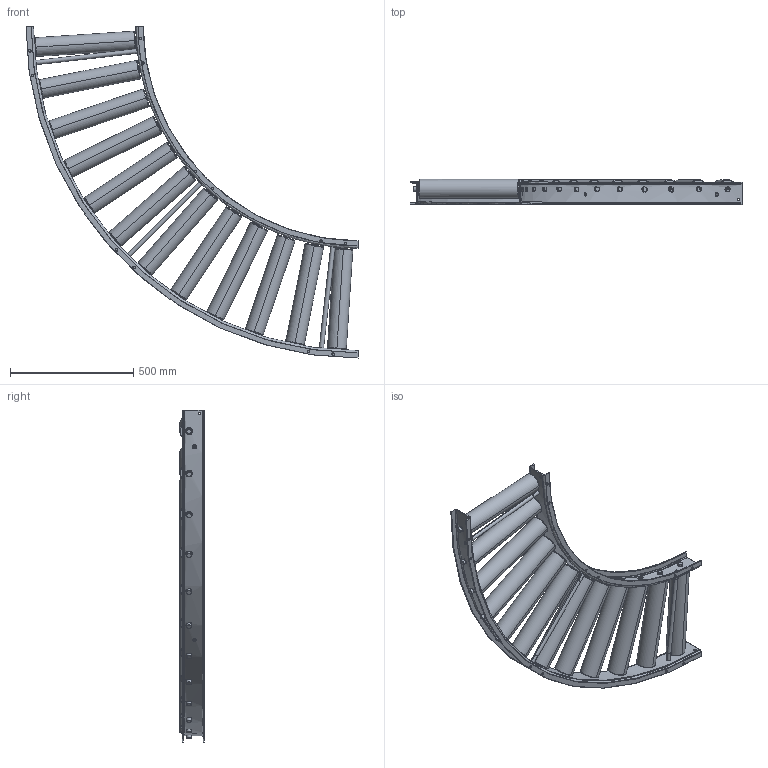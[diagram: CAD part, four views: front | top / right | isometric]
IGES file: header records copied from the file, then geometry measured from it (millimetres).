
Start section: 3D InterOp IGES (Version 21 0 2), Spatial Corp. Copyright (c) 1999-2007.
Global section: file name: R-7642SB-02.igs; native system: Spatial Corp.; preprocessor: 3D InterOp GENERIC/IGES 3.0; author: Noname; organization: Noname; date: 20121212.115353; units: millimetre
Bounding box: 1345 x 100.15 x 1345 mm (x, y, z)
Surface area: 2356134.5 mm2 (no closed solid volume)
Topology: 0 solids, 0 shells, 588 faces, 3584 edges, 3572 vertices
Faces by surface type: bspline 588
